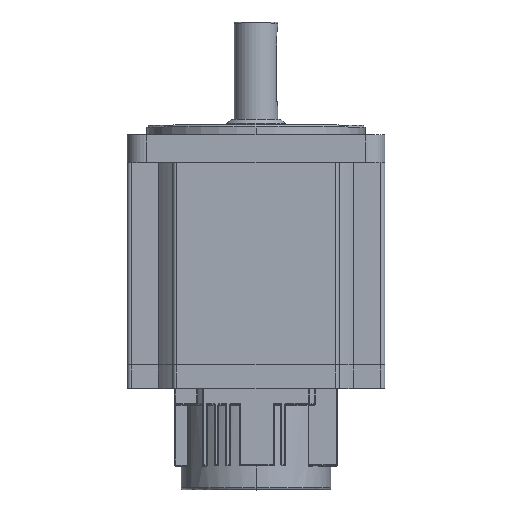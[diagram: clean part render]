
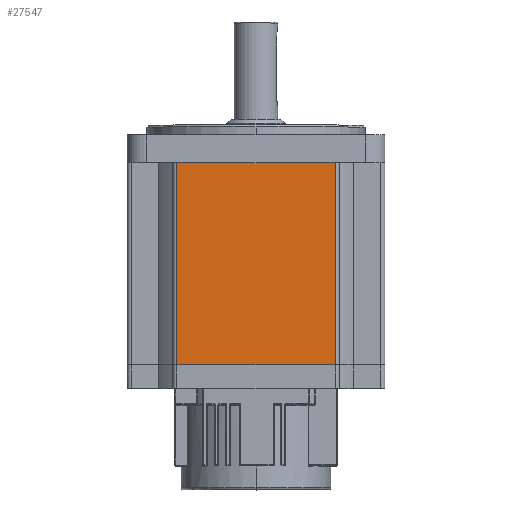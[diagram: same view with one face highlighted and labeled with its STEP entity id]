
A CAD part, top view. The second image highlights one B-rep face of the part: STEP entity #27547.
In plain terms, the highlighted planar face has unit normal (0, 0, 1) as drawn and (1, 0, 0) by its records, which use the part's own axes.
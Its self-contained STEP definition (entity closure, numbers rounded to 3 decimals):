
#362 = VECTOR ( 'NONE', #16944, 1000. ) ;
#560 = CARTESIAN_POINT ( 'NONE',  ( 65., 114., 40. ) ) ;
#842 = VERTEX_POINT ( 'NONE', #2077 ) ;
#997 = CARTESIAN_POINT ( 'NONE',  ( 65., 12., 40. ) ) ;
#2077 = CARTESIAN_POINT ( 'NONE',  ( 65., 114., -40. ) ) ;
#3828 = CARTESIAN_POINT ( 'NONE',  ( 65., 12., -40. ) ) ;
#3927 = CARTESIAN_POINT ( 'NONE',  ( 65., 114., 40. ) ) ;
#5637 = DIRECTION ( 'NONE',  ( 0., 0., 1. ) ) ;
#5726 = CARTESIAN_POINT ( 'NONE',  ( 65., 12., 40. ) ) ;
#5816 = EDGE_CURVE ( 'NONE', #22424, #15994, #17630, .T. ) ;
#6876 = ORIENTED_EDGE ( 'NONE', *, *, #5816, .T. ) ;
#8007 = PLANE ( 'NONE',  #26082 ) ;
#8327 = LINE ( 'NONE', #23300, #362 ) ;
#9966 = VECTOR ( 'NONE', #12819, 1000. ) ;
#11147 = CARTESIAN_POINT ( 'NONE',  ( 65., 114., -40. ) ) ;
#12819 = DIRECTION ( 'NONE',  ( 0., 0., -1. ) ) ;
#13224 = ORIENTED_EDGE ( 'NONE', *, *, #27356, .T. ) ;
#13881 = EDGE_LOOP ( 'NONE', ( #6876, #26293, #22747, #13224 ) ) ;
#14737 = EDGE_CURVE ( 'NONE', #842, #15994, #15488, .T. ) ;
#14893 = VECTOR ( 'NONE', #15948, 1000. ) ;
#15080 = VECTOR ( 'NONE', #19728, 1000. ) ;
#15488 = LINE ( 'NONE', #11147, #15080 ) ;
#15948 = DIRECTION ( 'NONE',  ( 0., 0., -1. ) ) ;
#15994 = VERTEX_POINT ( 'NONE', #3828 ) ;
#16944 = DIRECTION ( 'NONE',  ( 0., -1., 0. ) ) ;
#17190 = VERTEX_POINT ( 'NONE', #560 ) ;
#17630 = LINE ( 'NONE', #997, #14893 ) ;
#18580 = FACE_OUTER_BOUND ( 'NONE', #13881, .T. ) ;
#19149 = LINE ( 'NONE', #3927, #9966 ) ;
#19728 = DIRECTION ( 'NONE',  ( 0., -1., 0. ) ) ;
#22424 = VERTEX_POINT ( 'NONE', #5726 ) ;
#22719 = DIRECTION ( 'NONE',  ( -1., 0., 0. ) ) ;
#22747 = ORIENTED_EDGE ( 'NONE', *, *, #24380, .F. ) ;
#23300 = CARTESIAN_POINT ( 'NONE',  ( 65., 114., 40. ) ) ;
#24380 = EDGE_CURVE ( 'NONE', #17190, #842, #19149, .T. ) ;
#26082 = AXIS2_PLACEMENT_3D ( 'NONE', #27218, #22719, #5637 ) ;
#26293 = ORIENTED_EDGE ( 'NONE', *, *, #14737, .F. ) ;
#27218 = CARTESIAN_POINT ( 'NONE',  ( 65., 114., 40. ) ) ;
#27356 = EDGE_CURVE ( 'NONE', #17190, #22424, #8327, .T. ) ;
#27547 = ADVANCED_FACE ( 'NONE', ( #18580 ), #8007, .F. ) ;
